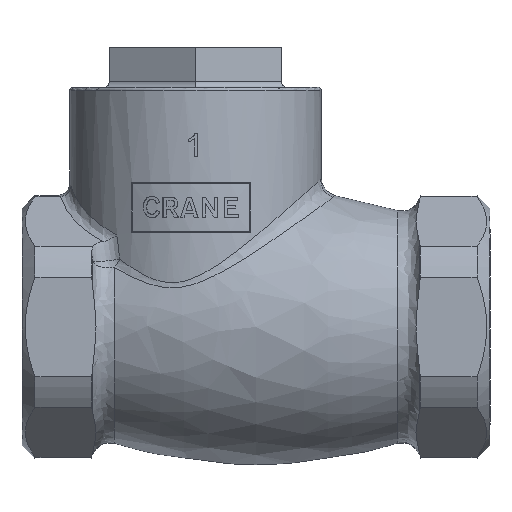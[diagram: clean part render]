
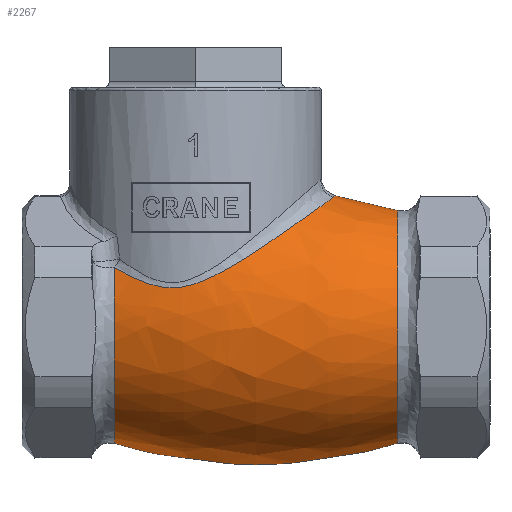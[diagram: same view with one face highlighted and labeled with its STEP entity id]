
A CAD part, front view. The second image highlights one B-rep face of the part: STEP entity #2267.
In plain terms, the highlighted free-form (B-spline) face has degree [2, 2] with [3, 9] control points.
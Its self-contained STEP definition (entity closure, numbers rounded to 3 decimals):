
#1319=CARTESIAN_POINT('',(-16.089,-20.252,0.0));
#1320=VERTEX_POINT('',#1319);
#1321=CARTESIAN_POINT('',(-16.089,0.,0.0));
#1322=DIRECTION('',(-1.0,0.0,0.0));
#1323=DIRECTION('',(0.0,-1.0,0.0));
#1324=AXIS2_PLACEMENT_3D('',#1321,#1322,#1323);
#1325=CIRCLE('',#1324,20.252);
#1326=EDGE_CURVE('',#1320,#1320,#1325,.T.);
#2158=CARTESIAN_POINT('',(-16.089,0.,-20.252));
#2159=CARTESIAN_POINT('',(-40.75,0.,-27.925));
#2160=CARTESIAN_POINT('',(-65.411,0.,-20.252));
#2161=CARTESIAN_POINT('',(-16.089,20.252,-20.252));
#2162=CARTESIAN_POINT('',(-40.75,27.925,-27.925));
#2163=CARTESIAN_POINT('',(-65.411,20.252,-20.252));
#2164=CARTESIAN_POINT('',(-16.089,20.252,0.));
#2165=CARTESIAN_POINT('',(-40.75,27.925,0.));
#2166=CARTESIAN_POINT('',(-65.411,20.252,0.));
#2167=CARTESIAN_POINT('',(-16.089,20.252,20.252));
#2168=CARTESIAN_POINT('',(-40.75,27.925,27.925));
#2169=CARTESIAN_POINT('',(-65.411,20.252,20.252));
#2170=CARTESIAN_POINT('',(-16.089,0.,20.252));
#2171=CARTESIAN_POINT('',(-40.75,0.,27.925));
#2172=CARTESIAN_POINT('',(-65.411,0.,20.252));
#2173=CARTESIAN_POINT('',(-16.089,-20.252,20.252));
#2174=CARTESIAN_POINT('',(-40.75,-27.925,27.925));
#2175=CARTESIAN_POINT('',(-65.411,-20.252,20.252));
#2176=CARTESIAN_POINT('',(-16.089,-20.252,0.));
#2177=CARTESIAN_POINT('',(-40.75,-27.925,0.));
#2178=CARTESIAN_POINT('',(-65.411,-20.252,0.));
#2179=CARTESIAN_POINT('',(-16.089,-20.252,-20.252));
#2180=CARTESIAN_POINT('',(-40.75,-27.925,-27.925));
#2181=CARTESIAN_POINT('',(-65.411,-20.252,-20.252));
#2182=CARTESIAN_POINT('',(-16.089,0.,-20.252));
#2183=CARTESIAN_POINT('',(-40.75,0.,-27.925));
#2184=CARTESIAN_POINT('',(-65.411,0.,-20.252));
#2192=(BOUNDED_SURFACE()B_SPLINE_SURFACE(2,2,((#2158,#2161,#2164,#2167,#2170,#2173,#2176,#2179,#2182),(#2159,#2162,#2165,#2168,#2171,#2174,#2177,#2180,#2183),(#2160,#2163,#2166,#2169,#2172,#2175,#2178,#2181,#2184)),.UNSPECIFIED.,.F.,.T.,.U.)B_SPLINE_SURFACE_WITH_KNOTS((3,3),(3,2,2,2,3),(-0.302,0.302),(0.0,1.571,3.142,4.712,6.283),.UNSPECIFIED.)GEOMETRIC_REPRESENTATION_ITEM()RATIONAL_B_SPLINE_SURFACE(((1.0,0.707,1.0,0.707,1.0,0.707,1.0,0.707,1.0),(0.955,0.675,0.955,0.675,0.955,0.675,0.955,0.675,0.955),(1.0,0.707,1.0,0.707,1.0,0.707,1.0,0.707,1.0)))REPRESENTATION_ITEM('')SURFACE());
#2193=ORIENTED_EDGE('',*,*,#1326,.T.);
#2194=EDGE_LOOP('',(#2193));
#2195=FACE_OUTER_BOUND('',#2194,.T.);
#2196=CARTESIAN_POINT('',(-65.411,-17.411,10.344));
#2197=VERTEX_POINT('',#2196);
#2198=CARTESIAN_POINT('',(-65.411,17.411,10.344));
#2199=VERTEX_POINT('',#2198);
#2200=CARTESIAN_POINT('',(-65.411,-17.411,10.344));
#2201=CARTESIAN_POINT('',(-64.437,-18.102,9.774));
#2202=CARTESIAN_POINT('',(-62.873,-19.054,8.907));
#2203=CARTESIAN_POINT('',(-60.882,-19.981,8.017));
#2204=CARTESIAN_POINT('',(-59.689,-20.456,7.575));
#2205=CARTESIAN_POINT('',(-58.46,-20.892,7.191));
#2206=CARTESIAN_POINT('',(-56.82,-21.37,6.844));
#2207=CARTESIAN_POINT('',(-55.116,-21.717,6.784));
#2208=CARTESIAN_POINT('',(-53.754,-21.91,6.922));
#2209=CARTESIAN_POINT('',(-52.733,-22.013,7.111));
#2210=CARTESIAN_POINT('',(-51.73,-22.073,7.377));
#2211=CARTESIAN_POINT('',(-50.502,-22.099,7.785));
#2212=CARTESIAN_POINT('',(-49.065,-22.054,8.379));
#2213=CARTESIAN_POINT('',(-47.434,-21.895,9.177));
#2214=CARTESIAN_POINT('',(-45.602,-21.598,10.175));
#2215=CARTESIAN_POINT('',(-43.584,-21.107,11.376));
#2216=CARTESIAN_POINT('',(-41.39,-20.352,12.767));
#2217=CARTESIAN_POINT('',(-39.287,-19.401,14.156));
#2218=CARTESIAN_POINT('',(-37.284,-18.257,15.514));
#2219=CARTESIAN_POINT('',(-35.401,-16.929,16.814));
#2220=CARTESIAN_POINT('',(-33.622,-15.393,18.058));
#2221=CARTESIAN_POINT('',(-32.262,-13.952,19.017));
#2222=CARTESIAN_POINT('',(-31.261,-12.708,19.726));
#2223=CARTESIAN_POINT('',(-30.326,-11.41,20.39));
#2224=CARTESIAN_POINT('',(-29.275,-9.669,21.138));
#2225=CARTESIAN_POINT('',(-28.241,-7.403,21.877));
#2226=CARTESIAN_POINT('',(-27.479,-5.022,22.422));
#2227=CARTESIAN_POINT('',(-27.006,-2.533,22.761));
#2228=CARTESIAN_POINT('',(-26.848,0.001,22.874));
#2229=CARTESIAN_POINT('',(-27.007,2.54,22.76));
#2230=CARTESIAN_POINT('',(-27.401,4.609,22.478));
#2231=CARTESIAN_POINT('',(-27.863,6.221,22.147));
#2232=CARTESIAN_POINT('',(-28.415,7.785,21.752));
#2233=CARTESIAN_POINT('',(-29.272,9.662,21.141));
#2234=CARTESIAN_POINT('',(-30.54,11.767,20.237));
#2235=CARTESIAN_POINT('',(-32.007,13.684,19.196));
#2236=CARTESIAN_POINT('',(-34.167,15.968,17.674));
#2237=CARTESIAN_POINT('',(-36.325,17.648,16.17));
#2238=CARTESIAN_POINT('',(-38.297,18.836,14.827));
#2239=CARTESIAN_POINT('',(-39.64,19.56,13.923));
#2240=CARTESIAN_POINT('',(-42.089,20.668,12.307));
#2241=CARTESIAN_POINT('',(-45.079,21.548,10.441));
#2242=CARTESIAN_POINT('',(-47.848,21.951,8.958));
#2243=CARTESIAN_POINT('',(-49.492,22.07,8.199));
#2244=CARTESIAN_POINT('',(-50.985,22.103,7.602));
#2245=CARTESIAN_POINT('',(-52.419,22.045,7.169));
#2246=CARTESIAN_POINT('',(-53.767,21.908,6.92));
#2247=CARTESIAN_POINT('',(-55.137,21.714,6.782));
#2248=CARTESIAN_POINT('',(-56.855,21.36,6.85));
#2249=CARTESIAN_POINT('',(-58.79,20.796,7.262));
#2250=CARTESIAN_POINT('',(-60.622,20.103,7.9));
#2251=CARTESIAN_POINT('',(-62.318,19.311,8.66));
#2252=CARTESIAN_POINT('',(-63.919,18.417,9.488));
#2253=CARTESIAN_POINT('',(-64.924,17.756,10.059));
#2254=CARTESIAN_POINT('',(-65.411,17.411,10.344));
#2255=B_SPLINE_CURVE_WITH_KNOTS('',3,(#2200,#2201,#2202,#2203,#2204,#2205,#2206,#2207,#2208,#2209,#2210,#2211,#2212,#2213,#2214,#2215,#2216,#2217,#2218,#2219,#2220,#2221,#2222,#2223,#2224,#2225,#2226,#2227,#2228,#2229,#2230,#2231,#2232,#2233,#2234,#2235,#2236,#2237,#2238,#2239,#2240,#2241,#2242,#2243,#2244,#2245,#2246,#2247,#2248,#2249,#2250,#2251,#2252,#2253,#2254),.UNSPECIFIED.,.F.,.U.,(4,1,1,1,1,1,1,1,1,1,1,1,1,1,1,1,1,1,1,1,1,1,1,1,1,1,1,1,1,1,1,1,1,1,1,1,1,1,1,1,1,1,1,1,1,1,1,1,1,1,1,1,4),(0.0,0.429,0.643,0.751,0.858,1.072,1.287,1.394,1.501,1.609,1.716,1.906,2.097,2.288,2.574,2.86,3.146,3.432,3.717,4.003,4.289,4.432,4.575,4.861,5.147,5.433,5.719,6.005,6.291,6.577,6.72,6.863,7.149,7.435,7.721,8.007,8.579,8.722,8.865,9.151,9.723,10.009,10.152,10.295,10.509,10.616,10.724,10.938,11.152,11.367,11.581,11.796,12.01),.UNSPECIFIED.);
#2256=EDGE_CURVE('',#2197,#2199,#2255,.T.);
#2257=ORIENTED_EDGE('',*,*,#2256,.F.);
#2258=CARTESIAN_POINT('',(-65.411,0.,0.0));
#2259=DIRECTION('',(-1.0,0.0,0.0));
#2260=DIRECTION('',(0.0,-1.0,0.0));
#2261=AXIS2_PLACEMENT_3D('',#2258,#2259,#2260);
#2262=CIRCLE('',#2261,20.252);
#2263=EDGE_CURVE('',#2199,#2197,#2262,.T.);
#2264=ORIENTED_EDGE('',*,*,#2263,.F.);
#2265=EDGE_LOOP('',(#2257,#2264));
#2266=FACE_BOUND('',#2265,.T.);
#2267=ADVANCED_FACE('',(#2195,#2266),#2192,.T.);
